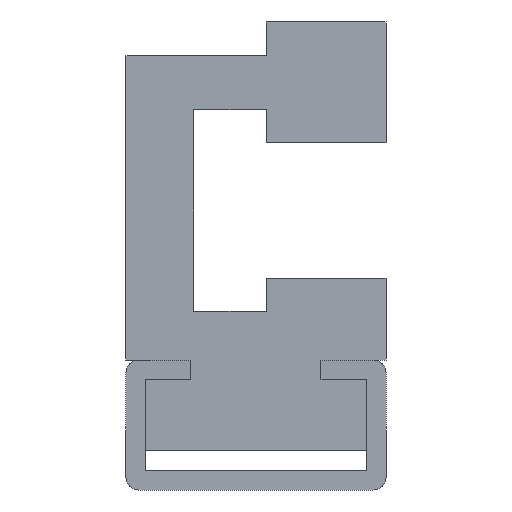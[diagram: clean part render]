
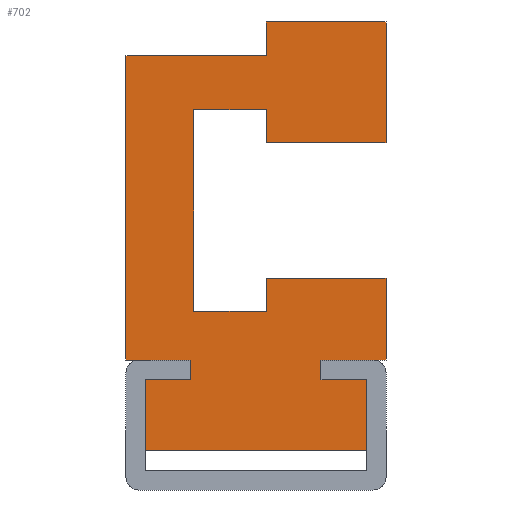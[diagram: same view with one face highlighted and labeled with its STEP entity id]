
A CAD part, front view. The second image highlights one B-rep face of the part: STEP entity #702.
In plain terms, the highlighted planar face has unit normal (0, -1, 0).
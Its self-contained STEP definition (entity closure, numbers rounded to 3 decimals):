
#61=CARTESIAN_POINT('Vertex',(0.8,0.,16.5)) ;
#66=CARTESIAN_POINT('Line Origine',(5.4,0.,16.5)) ;
#70=CARTESIAN_POINT('Vertex',(10.,0.,16.5)) ;
#97=CARTESIAN_POINT('Line Origine',(10.,0.,11.85)) ;
#101=CARTESIAN_POINT('Vertex',(10.,0.,7.2)) ;
#128=CARTESIAN_POINT('Line Origine',(5.4,0.,7.2)) ;
#132=CARTESIAN_POINT('Vertex',(0.8,0.,7.2)) ;
#159=CARTESIAN_POINT('Line Origine',(0.8,0.,8.475)) ;
#163=CARTESIAN_POINT('Vertex',(0.8,0.,9.75)) ;
#190=CARTESIAN_POINT('Line Origine',(-2.,0.,9.75)) ;
#194=CARTESIAN_POINT('Vertex',(-4.8,0.,9.75)) ;
#221=CARTESIAN_POINT('Line Origine',(-4.8,0.,2.)) ;
#225=CARTESIAN_POINT('Vertex',(-4.8,0.,-5.75)) ;
#252=CARTESIAN_POINT('Line Origine',(-2.,0.,-5.75)) ;
#256=CARTESIAN_POINT('Vertex',(0.8,0.,-5.75)) ;
#278=CARTESIAN_POINT('Line Origine',(0.8,0.,-4.475)) ;
#282=CARTESIAN_POINT('Vertex',(0.8,0.,-3.2)) ;
#309=CARTESIAN_POINT('Line Origine',(5.4,0.,-3.2)) ;
#313=CARTESIAN_POINT('Vertex',(10.,0.,-3.2)) ;
#342=CARTESIAN_POINT('Line Origine',(10.,0.,-6.35)) ;
#346=CARTESIAN_POINT('Vertex',(10.,0.,-9.5)) ;
#373=CARTESIAN_POINT('Line Origine',(7.5,0.,-9.5)) ;
#377=CARTESIAN_POINT('Vertex',(5.,0.,-9.5)) ;
#397=CARTESIAN_POINT('Line Origine',(5.,0.,-10.25)) ;
#401=CARTESIAN_POINT('Vertex',(5.,0.,-11.)) ;
#435=CARTESIAN_POINT('Line Origine',(6.75,0.,-11.)) ;
#439=CARTESIAN_POINT('Vertex',(8.5,0.,-11.)) ;
#466=CARTESIAN_POINT('Line Origine',(8.5,0.,-13.75)) ;
#470=CARTESIAN_POINT('Vertex',(8.5,0.,-16.5)) ;
#497=CARTESIAN_POINT('Line Origine',(0.,0.,-16.5)) ;
#501=CARTESIAN_POINT('Vertex',(-8.5,0.,-16.5)) ;
#521=CARTESIAN_POINT('Line Origine',(-8.5,0.,-13.75)) ;
#525=CARTESIAN_POINT('Vertex',(-8.5,0.,-11.)) ;
#547=CARTESIAN_POINT('Line Origine',(-6.75,0.,-11.)) ;
#551=CARTESIAN_POINT('Vertex',(-5.,0.,-11.)) ;
#578=CARTESIAN_POINT('Line Origine',(-5.,0.,-10.25)) ;
#582=CARTESIAN_POINT('Vertex',(-5.,0.,-9.5)) ;
#611=CARTESIAN_POINT('Line Origine',(-7.5,0.,-9.5)) ;
#615=CARTESIAN_POINT('Vertex',(-10.,0.,-9.5)) ;
#635=CARTESIAN_POINT('Line Origine',(-10.,0.,2.2)) ;
#639=CARTESIAN_POINT('Vertex',(-10.,0.,13.9)) ;
#661=CARTESIAN_POINT('Axis2P3D Location',(0.,0.,0.)) ;
#666=CARTESIAN_POINT('Line Origine',(0.8,0.,15.2)) ;
#670=CARTESIAN_POINT('Vertex',(0.8,0.,13.9)) ;
#673=CARTESIAN_POINT('Line Origine',(-4.6,0.,13.9)) ;
#67=DIRECTION('Vector Direction',(-1.,0.,0.)) ;
#98=DIRECTION('Vector Direction',(0.,0.,1.)) ;
#129=DIRECTION('Vector Direction',(-1.,0.,0.)) ;
#160=DIRECTION('Vector Direction',(0.,0.,1.)) ;
#191=DIRECTION('Vector Direction',(-1.,0.,0.)) ;
#222=DIRECTION('Vector Direction',(0.,0.,-1.)) ;
#253=DIRECTION('Vector Direction',(1.,0.,0.)) ;
#279=DIRECTION('Vector Direction',(0.,0.,1.)) ;
#310=DIRECTION('Vector Direction',(1.,0.,0.)) ;
#343=DIRECTION('Vector Direction',(0.,0.,1.)) ;
#374=DIRECTION('Vector Direction',(1.,0.,0.)) ;
#398=DIRECTION('Vector Direction',(0.,0.,-1.)) ;
#436=DIRECTION('Vector Direction',(-1.,0.,0.)) ;
#467=DIRECTION('Vector Direction',(0.,0.,-1.)) ;
#498=DIRECTION('Vector Direction',(1.,0.,0.)) ;
#522=DIRECTION('Vector Direction',(0.,0.,1.)) ;
#548=DIRECTION('Vector Direction',(1.,0.,0.)) ;
#579=DIRECTION('Vector Direction',(0.,0.,1.)) ;
#612=DIRECTION('Vector Direction',(1.,0.,0.)) ;
#636=DIRECTION('Vector Direction',(0.,0.,-1.)) ;
#662=DIRECTION('Axis2P3D Direction',(0.,1.,0.)) ;
#663=DIRECTION('Axis2P3D XDirection',(-1.,0.,0.)) ;
#667=DIRECTION('Vector Direction',(0.,0.,1.)) ;
#674=DIRECTION('Vector Direction',(1.,0.,0.)) ;
#664=AXIS2_PLACEMENT_3D('Plane Axis2P3D',#661,#662,#663) ;
#679=ORIENTED_EDGE('',*,*,#196,.F.) ;
#680=ORIENTED_EDGE('',*,*,#165,.F.) ;
#681=ORIENTED_EDGE('',*,*,#134,.F.) ;
#682=ORIENTED_EDGE('',*,*,#103,.F.) ;
#683=ORIENTED_EDGE('',*,*,#72,.F.) ;
#684=ORIENTED_EDGE('',*,*,#672,.F.) ;
#685=ORIENTED_EDGE('',*,*,#677,.F.) ;
#686=ORIENTED_EDGE('',*,*,#641,.T.) ;
#687=ORIENTED_EDGE('',*,*,#617,.T.) ;
#688=ORIENTED_EDGE('',*,*,#584,.F.) ;
#689=ORIENTED_EDGE('',*,*,#553,.F.) ;
#690=ORIENTED_EDGE('',*,*,#527,.F.) ;
#691=ORIENTED_EDGE('',*,*,#503,.F.) ;
#692=ORIENTED_EDGE('',*,*,#472,.F.) ;
#693=ORIENTED_EDGE('',*,*,#441,.T.) ;
#694=ORIENTED_EDGE('',*,*,#403,.F.) ;
#695=ORIENTED_EDGE('',*,*,#379,.T.) ;
#696=ORIENTED_EDGE('',*,*,#348,.T.) ;
#697=ORIENTED_EDGE('',*,*,#315,.F.) ;
#698=ORIENTED_EDGE('',*,*,#284,.F.) ;
#699=ORIENTED_EDGE('',*,*,#258,.F.) ;
#700=ORIENTED_EDGE('',*,*,#227,.F.) ;
#68=VECTOR('Line Direction',#67,1.) ;
#99=VECTOR('Line Direction',#98,1.) ;
#130=VECTOR('Line Direction',#129,1.) ;
#161=VECTOR('Line Direction',#160,1.) ;
#192=VECTOR('Line Direction',#191,1.) ;
#223=VECTOR('Line Direction',#222,1.) ;
#254=VECTOR('Line Direction',#253,1.) ;
#280=VECTOR('Line Direction',#279,1.) ;
#311=VECTOR('Line Direction',#310,1.) ;
#344=VECTOR('Line Direction',#343,1.) ;
#375=VECTOR('Line Direction',#374,1.) ;
#399=VECTOR('Line Direction',#398,1.) ;
#437=VECTOR('Line Direction',#436,1.) ;
#468=VECTOR('Line Direction',#467,1.) ;
#499=VECTOR('Line Direction',#498,1.) ;
#523=VECTOR('Line Direction',#522,1.) ;
#549=VECTOR('Line Direction',#548,1.) ;
#580=VECTOR('Line Direction',#579,1.) ;
#613=VECTOR('Line Direction',#612,1.) ;
#637=VECTOR('Line Direction',#636,1.) ;
#668=VECTOR('Line Direction',#667,1.) ;
#675=VECTOR('Line Direction',#674,1.) ;
#702=ADVANCED_FACE('PartBody',(#701),#665,.F.) ;
#72=EDGE_CURVE('',#62,#71,#69,.F.) ;
#103=EDGE_CURVE('',#71,#102,#100,.F.) ;
#134=EDGE_CURVE('',#102,#133,#131,.T.) ;
#165=EDGE_CURVE('',#133,#164,#162,.T.) ;
#196=EDGE_CURVE('',#164,#195,#193,.T.) ;
#227=EDGE_CURVE('',#195,#226,#224,.T.) ;
#258=EDGE_CURVE('',#226,#257,#255,.T.) ;
#284=EDGE_CURVE('',#257,#283,#281,.T.) ;
#315=EDGE_CURVE('',#283,#314,#312,.T.) ;
#348=EDGE_CURVE('',#347,#314,#345,.T.) ;
#379=EDGE_CURVE('',#378,#347,#376,.T.) ;
#403=EDGE_CURVE('',#378,#402,#400,.T.) ;
#441=EDGE_CURVE('',#440,#402,#438,.T.) ;
#472=EDGE_CURVE('',#440,#471,#469,.T.) ;
#503=EDGE_CURVE('',#471,#502,#500,.F.) ;
#527=EDGE_CURVE('',#502,#526,#524,.T.) ;
#553=EDGE_CURVE('',#526,#552,#550,.T.) ;
#584=EDGE_CURVE('',#552,#583,#581,.T.) ;
#617=EDGE_CURVE('',#616,#583,#614,.T.) ;
#641=EDGE_CURVE('',#640,#616,#638,.T.) ;
#672=EDGE_CURVE('',#671,#62,#669,.T.) ;
#677=EDGE_CURVE('',#640,#671,#676,.T.) ;
#678=EDGE_LOOP('',(#679,#680,#681,#682,#683,#684,#685,#686,#687,#688,#689,#690,#691,#692,#693,#694,#695,#696,#697,#698,#699,#700)) ;
#701=FACE_OUTER_BOUND('',#678,.T.) ;
#69=LINE('Line',#66,#68) ;
#100=LINE('Line',#97,#99) ;
#131=LINE('Line',#128,#130) ;
#162=LINE('Line',#159,#161) ;
#193=LINE('Line',#190,#192) ;
#224=LINE('Line',#221,#223) ;
#255=LINE('Line',#252,#254) ;
#281=LINE('Line',#278,#280) ;
#312=LINE('Line',#309,#311) ;
#345=LINE('Line',#342,#344) ;
#376=LINE('Line',#373,#375) ;
#400=LINE('Line',#397,#399) ;
#438=LINE('Line',#435,#437) ;
#469=LINE('Line',#466,#468) ;
#500=LINE('Line',#497,#499) ;
#524=LINE('Line',#521,#523) ;
#550=LINE('Line',#547,#549) ;
#581=LINE('Line',#578,#580) ;
#614=LINE('Line',#611,#613) ;
#638=LINE('Line',#635,#637) ;
#669=LINE('Line',#666,#668) ;
#676=LINE('Line',#673,#675) ;
#665=PLANE('',#664) ;
#62=VERTEX_POINT('',#61) ;
#71=VERTEX_POINT('',#70) ;
#102=VERTEX_POINT('',#101) ;
#133=VERTEX_POINT('',#132) ;
#164=VERTEX_POINT('',#163) ;
#195=VERTEX_POINT('',#194) ;
#226=VERTEX_POINT('',#225) ;
#257=VERTEX_POINT('',#256) ;
#283=VERTEX_POINT('',#282) ;
#314=VERTEX_POINT('',#313) ;
#347=VERTEX_POINT('',#346) ;
#378=VERTEX_POINT('',#377) ;
#402=VERTEX_POINT('',#401) ;
#440=VERTEX_POINT('',#439) ;
#471=VERTEX_POINT('',#470) ;
#502=VERTEX_POINT('',#501) ;
#526=VERTEX_POINT('',#525) ;
#552=VERTEX_POINT('',#551) ;
#583=VERTEX_POINT('',#582) ;
#616=VERTEX_POINT('',#615) ;
#640=VERTEX_POINT('',#639) ;
#671=VERTEX_POINT('',#670) ;
